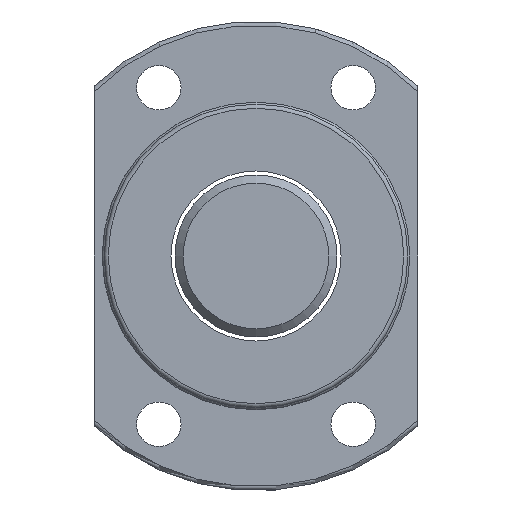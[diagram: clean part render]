
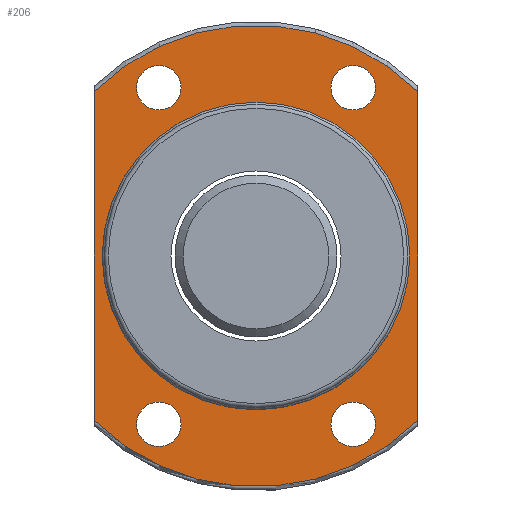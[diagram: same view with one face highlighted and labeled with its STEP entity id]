
A CAD part, left-side view. The second image highlights one B-rep face of the part: STEP entity #206.
In plain terms, the highlighted planar face has unit normal (-1, 0, 0).
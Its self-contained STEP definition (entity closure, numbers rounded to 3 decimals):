
#106=PLANE('',#622);
#122=FACE_BOUND('',#277,.T.);
#123=FACE_BOUND('',#278,.T.);
#124=FACE_BOUND('',#279,.T.);
#125=FACE_BOUND('',#280,.T.);
#126=FACE_BOUND('',#281,.T.);
#189=LINE('',#1033,#197);
#190=LINE('',#1034,#198);
#197=VECTOR('',#731,1.);
#198=VECTOR('',#732,1.);
#206=ADVANCED_FACE('',(#122,#123,#124,#125,#126,#252),#106,.F.);
#252=FACE_OUTER_BOUND('',#282,.T.);
#277=EDGE_LOOP('',(#378));
#278=EDGE_LOOP('',(#379));
#279=EDGE_LOOP('',(#380));
#280=EDGE_LOOP('',(#381));
#281=EDGE_LOOP('',(#382));
#282=EDGE_LOOP('',(#383,#384,#385,#386));
#378=ORIENTED_EDGE('',*,*,#529,.F.);
#379=ORIENTED_EDGE('',*,*,#530,.T.);
#380=ORIENTED_EDGE('',*,*,#531,.T.);
#381=ORIENTED_EDGE('',*,*,#532,.T.);
#382=ORIENTED_EDGE('',*,*,#533,.T.);
#383=ORIENTED_EDGE('',*,*,#527,.T.);
#384=ORIENTED_EDGE('',*,*,#534,.T.);
#385=ORIENTED_EDGE('',*,*,#510,.T.);
#386=ORIENTED_EDGE('',*,*,#535,.F.);
#463=VERTEX_POINT('',#891);
#464=VERTEX_POINT('',#892);
#474=VERTEX_POINT('',#1000);
#475=VERTEX_POINT('',#1002);
#476=VERTEX_POINT('',#1024);
#477=VERTEX_POINT('',#1026);
#478=VERTEX_POINT('',#1028);
#479=VERTEX_POINT('',#1030);
#480=VERTEX_POINT('',#1032);
#510=EDGE_CURVE('',#463,#464,#561,.T.);
#527=EDGE_CURVE('',#475,#474,#569,.T.);
#529=EDGE_CURVE('',#476,#476,#570,.T.);
#530=EDGE_CURVE('',#477,#477,#571,.T.);
#531=EDGE_CURVE('',#478,#478,#572,.T.);
#532=EDGE_CURVE('',#479,#479,#573,.T.);
#533=EDGE_CURVE('',#480,#480,#574,.T.);
#534=EDGE_CURVE('',#474,#463,#189,.T.);
#535=EDGE_CURVE('',#475,#464,#190,.T.);
#561=CIRCLE('',#603,28.5);
#569=CIRCLE('',#615,28.5);
#570=CIRCLE('',#617,19.);
#571=CIRCLE('',#618,2.75);
#572=CIRCLE('',#619,2.75);
#573=CIRCLE('',#620,2.75);
#574=CIRCLE('',#621,2.75);
#603=AXIS2_PLACEMENT_3D('',#890,#689,#690);
#615=AXIS2_PLACEMENT_3D('',#1001,#717,#718);
#617=AXIS2_PLACEMENT_3D('',#1023,#721,#722);
#618=AXIS2_PLACEMENT_3D('',#1025,#723,#724);
#619=AXIS2_PLACEMENT_3D('',#1027,#725,#726);
#620=AXIS2_PLACEMENT_3D('',#1029,#727,#728);
#621=AXIS2_PLACEMENT_3D('',#1031,#729,#730);
#622=AXIS2_PLACEMENT_3D('',#1035,#733,#734);
#689=DIRECTION('',(-1.,0.,0.));
#690=DIRECTION('',(0.,-1.,0.));
#717=DIRECTION('',(-1.,0.,0.));
#718=DIRECTION('',(0.,-1.,0.));
#721=DIRECTION('',(-1.,0.,0.));
#722=DIRECTION('',(0.,-1.,0.));
#723=DIRECTION('',(1.,0.,0.));
#724=DIRECTION('',(0.,1.,0.));
#725=DIRECTION('',(1.,0.,0.));
#726=DIRECTION('',(0.,1.,0.));
#727=DIRECTION('',(1.,0.,0.));
#728=DIRECTION('',(0.,1.,0.));
#729=DIRECTION('',(1.,0.,0.));
#730=DIRECTION('',(0.,1.,0.));
#731=DIRECTION('',(0.,0.,-1.));
#732=DIRECTION('',(0.,0.,-1.));
#733=DIRECTION('',(1.,0.,0.));
#734=DIRECTION('',(0.,1.,0.));
#890=CARTESIAN_POINT('',(-36.,0.,0.));
#891=CARTESIAN_POINT('',(-36.,20.,-20.304));
#892=CARTESIAN_POINT('',(-36.,-20.,-20.304));
#1000=CARTESIAN_POINT('',(-36.,20.,20.304));
#1001=CARTESIAN_POINT('',(-36.,0.,0.));
#1002=CARTESIAN_POINT('',(-36.,-20.,20.304));
#1023=CARTESIAN_POINT('',(-36.,0.,0.));
#1024=CARTESIAN_POINT('',(-36.,-19.,0.));
#1025=CARTESIAN_POINT('',(-36.,12.,20.78));
#1026=CARTESIAN_POINT('',(-36.,14.75,20.78));
#1027=CARTESIAN_POINT('',(-36.,-12.,20.78));
#1028=CARTESIAN_POINT('',(-36.,-9.25,20.78));
#1029=CARTESIAN_POINT('',(-36.,-12.,-20.78));
#1030=CARTESIAN_POINT('',(-36.,-9.25,-20.78));
#1031=CARTESIAN_POINT('',(-36.,12.,-20.78));
#1032=CARTESIAN_POINT('',(-36.,14.75,-20.78));
#1033=CARTESIAN_POINT('',(-36.,20.,0.));
#1034=CARTESIAN_POINT('',(-36.,-20.,0.));
#1035=CARTESIAN_POINT('',(-36.,23.75,0.));
